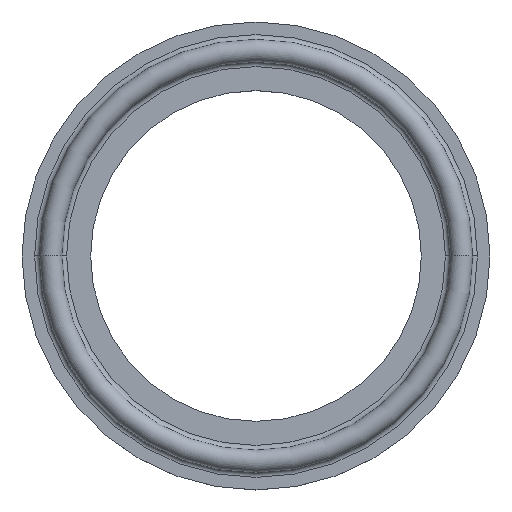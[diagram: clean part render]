
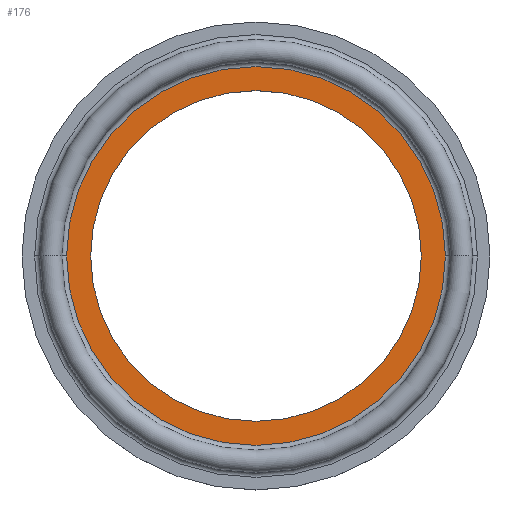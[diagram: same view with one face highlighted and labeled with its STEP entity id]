
A CAD part, top view. The second image highlights one B-rep face of the part: STEP entity #176.
In plain terms, the highlighted planar face has unit normal (0, 0, 1).
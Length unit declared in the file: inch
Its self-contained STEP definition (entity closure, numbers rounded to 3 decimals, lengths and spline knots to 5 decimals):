
#3 = DIRECTION ( 'NONE',  ( 1., 0., 0. ) ) ;
#19 = AXIS2_PLACEMENT_3D ( 'NONE', #106, #291, #384 ) ;
#25 = AXIS2_PLACEMENT_3D ( 'NONE', #56, #234, #3 ) ;
#26 = EDGE_CURVE ( 'NONE', #172, #216, #417, .T. ) ;
#36 = AXIS2_PLACEMENT_3D ( 'NONE', #99, #568, #570 ) ;
#44 = CARTESIAN_POINT ( 'NONE',  ( 0.79212, 0., 0. ) ) ;
#52 = DIRECTION ( 'NONE',  ( 0., 0., -1. ) ) ;
#55 = CIRCLE ( 'NONE', #25, 0.79212 ) ;
#56 = CARTESIAN_POINT ( 'NONE',  ( 0., 0., 0. ) ) ;
#87 = CARTESIAN_POINT ( 'NONE',  ( 0., 0., 0. ) ) ;
#99 = CARTESIAN_POINT ( 'NONE',  ( 0., 0., 0. ) ) ;
#100 = PLANE ( 'NONE',  #586 ) ;
#105 = EDGE_LOOP ( 'NONE', ( #531, #122 ) ) ;
#106 = CARTESIAN_POINT ( 'NONE',  ( 0., 0., 0. ) ) ;
#115 = AXIS2_PLACEMENT_3D ( 'NONE', #87, #396, #316 ) ;
#122 = ORIENTED_EDGE ( 'NONE', *, *, #26, .T. ) ;
#139 = DIRECTION ( 'NONE',  ( -1., 0., 0. ) ) ;
#150 = ORIENTED_EDGE ( 'NONE', *, *, #314, .F. ) ;
#172 = VERTEX_POINT ( 'NONE', #513 ) ;
#176 = ADVANCED_FACE ( 'NONE', ( #371, #519 ), #100, .F. ) ;
#184 = CARTESIAN_POINT ( 'NONE',  ( 0.6915, 0., 0. ) ) ;
#188 = EDGE_LOOP ( 'NONE', ( #150, #372 ) ) ;
#216 = VERTEX_POINT ( 'NONE', #44 ) ;
#234 = DIRECTION ( 'NONE',  ( 0., 0., 1. ) ) ;
#286 = CIRCLE ( 'NONE', #19, 0.6915 ) ;
#291 = DIRECTION ( 'NONE',  ( 0., 0., 1. ) ) ;
#309 = EDGE_CURVE ( 'NONE', #438, #588, #286, .T. ) ;
#314 = EDGE_CURVE ( 'NONE', #588, #438, #400, .T. ) ;
#316 = DIRECTION ( 'NONE',  ( 1., 0., 0. ) ) ;
#371 = FACE_BOUND ( 'NONE', #188, .T. ) ;
#372 = ORIENTED_EDGE ( 'NONE', *, *, #309, .F. ) ;
#384 = DIRECTION ( 'NONE',  ( 1., 0., 0. ) ) ;
#396 = DIRECTION ( 'NONE',  ( 0., 0., 1. ) ) ;
#400 = CIRCLE ( 'NONE', #36, 0.6915 ) ;
#405 = CARTESIAN_POINT ( 'NONE',  ( -0.6915, 0., 0. ) ) ;
#417 = CIRCLE ( 'NONE', #115, 0.79212 ) ;
#438 = VERTEX_POINT ( 'NONE', #405 ) ;
#461 = CARTESIAN_POINT ( 'NONE',  ( 0., 0.6915, 0. ) ) ;
#513 = CARTESIAN_POINT ( 'NONE',  ( -0.79212, 0., 0. ) ) ;
#519 = FACE_OUTER_BOUND ( 'NONE', #105, .T. ) ;
#531 = ORIENTED_EDGE ( 'NONE', *, *, #537, .T. ) ;
#537 = EDGE_CURVE ( 'NONE', #216, #172, #55, .T. ) ;
#568 = DIRECTION ( 'NONE',  ( 0., 0., 1. ) ) ;
#570 = DIRECTION ( 'NONE',  ( 1., 0., 0. ) ) ;
#586 = AXIS2_PLACEMENT_3D ( 'NONE', #461, #52, #139 ) ;
#588 = VERTEX_POINT ( 'NONE', #184 ) ;
